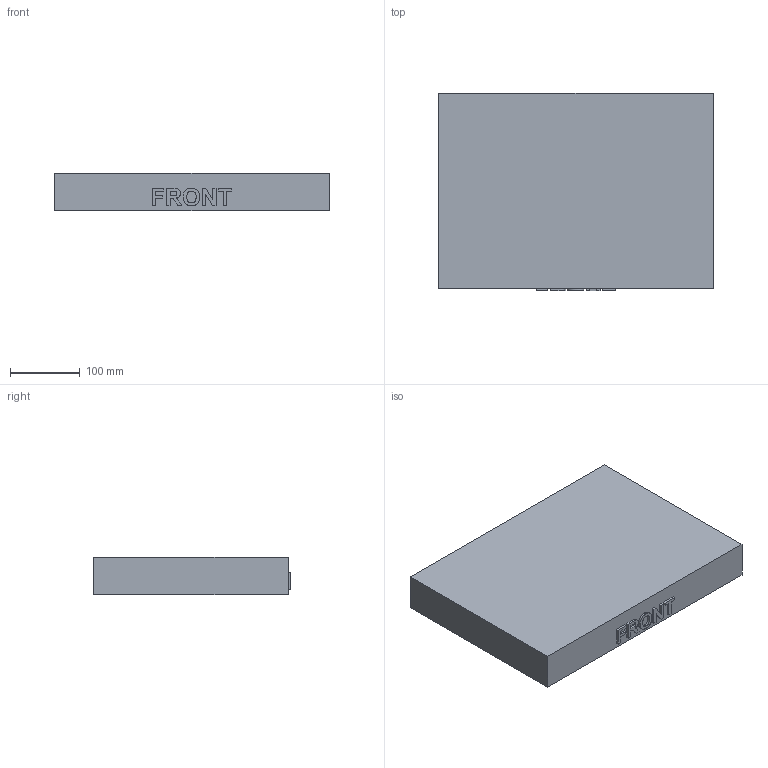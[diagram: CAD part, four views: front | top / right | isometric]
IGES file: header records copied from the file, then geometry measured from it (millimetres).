
Start section: Comment
Global section: file name: 2200-lid_internal_tub.igs; native system:  By UGS Corp.; preprocessor: XPlus GENERIC/IGES 3.0; author: Author; organization: Title; date: 20100512.153952; units: millimetre
Bounding box: 393.7 x 282.57 x 53.98 mm (x, y, z)
Surface area: 349048.6 mm2 (no closed solid volume)
Topology: 0 solids, 0 shells, 223 faces, 1406 edges, 1394 vertices
Faces by surface type: bspline 223
